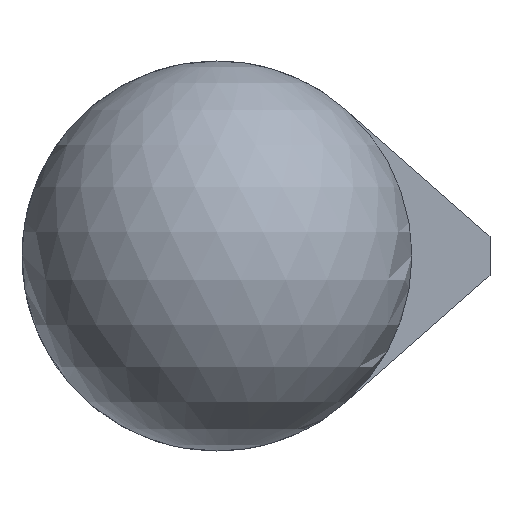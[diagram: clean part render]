
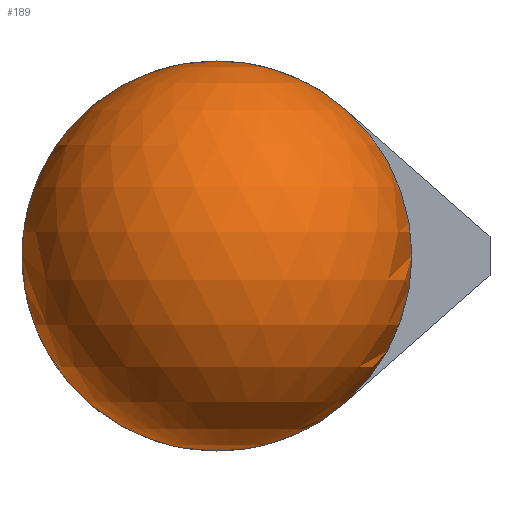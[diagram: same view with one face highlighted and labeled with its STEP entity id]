
A CAD part, front view. The second image highlights one B-rep face of the part: STEP entity #189.
In plain terms, the highlighted spherical face has radius 5 mm.
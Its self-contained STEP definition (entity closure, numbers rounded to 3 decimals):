
#189=ADVANCED_FACE('',(#298),#299,.T.);
#298=FACE_OUTER_BOUND('',#382,.T.);
#299=SPHERICAL_SURFACE('',#383,5.0);
#382=EDGE_LOOP('',(#527,#528));
#383=AXIS2_PLACEMENT_3D('',#529,#530,#531);
#527=ORIENTED_EDGE('',*,*,#592,.F.);
#528=ORIENTED_EDGE('',*,*,#588,.F.);
#529=CARTESIAN_POINT('',(0.0,-24.0,0.0));
#530=DIRECTION('',(0.0,0.0,1.0));
#531=DIRECTION('',(1.0,0.0,0.0));
#588=EDGE_CURVE('',#658,#644,#663,.T.);
#592=EDGE_CURVE('',#644,#658,#668,.T.);
#644=VERTEX_POINT('',#731);
#658=VERTEX_POINT('',#752);
#663=CIRCLE('',#759,5.0);
#668=CIRCLE('',#764,5.0);
#731=CARTESIAN_POINT('',(3.303,-24.0,3.753));
#752=CARTESIAN_POINT('',(3.303,-24.0,-3.753));
#759=AXIS2_PLACEMENT_3D('',#815,#816,#817);
#764=AXIS2_PLACEMENT_3D('',#821,#822,#823);
#815=CARTESIAN_POINT('',(0.,-24.0,0.0));
#816=DIRECTION('',(-0.0,1.0,0.0));
#817=DIRECTION('',(1.0,0.0,0.0));
#821=CARTESIAN_POINT('',(0.0,-24.0,0.0));
#822=DIRECTION('',(0.0,1.0,0.0));
#823=DIRECTION('',(0.0,0.0,1.0));
